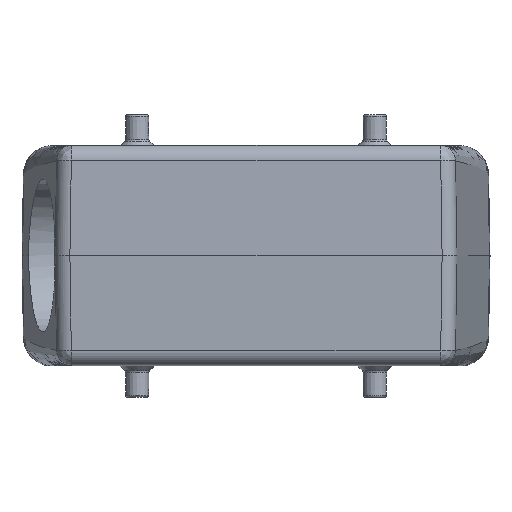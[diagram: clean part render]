
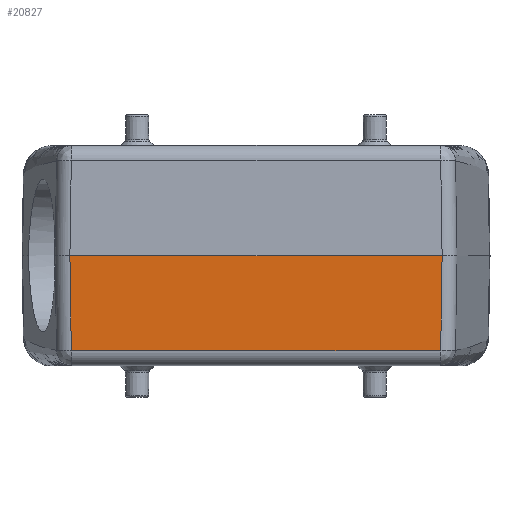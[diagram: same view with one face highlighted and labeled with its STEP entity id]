
A CAD part, top view. The second image highlights one B-rep face of the part: STEP entity #20827.
In plain terms, the highlighted planar face has unit normal (0, -0.018, 1).
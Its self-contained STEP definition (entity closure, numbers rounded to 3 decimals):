
#1194 = CARTESIAN_POINT ( 'NONE',  ( -36.903, -18.923, 59.67 ) ) ;
#1287 = VERTEX_POINT ( 'NONE', #15973 ) ;
#1396 = ORIENTED_EDGE ( 'NONE', *, *, #20356, .F. ) ;
#1898 = CARTESIAN_POINT ( 'NONE',  ( -37.18, 0., 60. ) ) ;
#2430 = DIRECTION ( 'NONE',  ( -0.015, -1., -0.017 ) ) ;
#2560 = CARTESIAN_POINT ( 'NONE',  ( 36.888, -18.987, 59.669 ) ) ;
#2703 = AXIS2_PLACEMENT_3D ( 'NONE', #11277, #3659, #7211 ) ;
#3298 = ORIENTED_EDGE ( 'NONE', *, *, #20020, .T. ) ;
#3659 = DIRECTION ( 'NONE',  ( 0., -0.017, 1. ) ) ;
#3797 = EDGE_CURVE ( 'NONE', #18580, #9563, #16385, .T. ) ;
#4169 = CARTESIAN_POINT ( 'NONE',  ( 36.765, -19.052, 59.667 ) ) ;
#4434 = B_SPLINE_CURVE_WITH_KNOTS ( 'NONE', 3,
 ( #6717, #15724, #22628, #13808, #15570, #4943 ),
 .UNSPECIFIED., .F., .F.,
 ( 4, 2, 4 ),
 ( 0., 0.5, 1. ),
 .UNSPECIFIED. ) ;
#4943 = CARTESIAN_POINT ( 'NONE',  ( -36.771, -19.052, 59.667 ) ) ;
#6174 = CARTESIAN_POINT ( 'NONE',  ( 36.802, -19.052, 59.667 ) ) ;
#6717 = CARTESIAN_POINT ( 'NONE',  ( -36.903, -18.923, 59.67 ) ) ;
#7152 = CARTESIAN_POINT ( 'NONE',  ( 37.18, 0., 60. ) ) ;
#7211 = DIRECTION ( 'NONE',  ( 0., -1., -0.017 ) ) ;
#7592 = CARTESIAN_POINT ( 'NONE',  ( 36.902, -18.955, 59.669 ) ) ;
#8279 = EDGE_LOOP ( 'NONE', ( #15102, #22128, #12486, #12284, #1396, #3298 ) ) ;
#8335 = LINE ( 'NONE', #15623, #8883 ) ;
#8883 = VECTOR ( 'NONE', #17233, 1000. ) ;
#8977 = FACE_OUTER_BOUND ( 'NONE', #8279, .T. ) ;
#9445 = CARTESIAN_POINT ( 'NONE',  ( 36.765, -19.052, 59.667 ) ) ;
#9555 = VECTOR ( 'NONE', #10990, 1000. ) ;
#9563 = VERTEX_POINT ( 'NONE', #17411 ) ;
#10270 = B_SPLINE_CURVE_WITH_KNOTS ( 'NONE', 3,
 ( #21195, #21355, #14165, #1898 ),
 .UNSPECIFIED., .F., .F.,
 ( 4, 4 ),
 ( 0., 1. ),
 .UNSPECIFIED. ) ;
#10990 = DIRECTION ( 'NONE',  ( -1., 0., 0. ) ) ;
#11277 = CARTESIAN_POINT ( 'NONE',  ( -66.197, 0., 60. ) ) ;
#12284 = ORIENTED_EDGE ( 'NONE', *, *, #20446, .T. ) ;
#12486 = ORIENTED_EDGE ( 'NONE', *, *, #19866, .F. ) ;
#13343 = VERTEX_POINT ( 'NONE', #1194 ) ;
#13441 = LINE ( 'NONE', #19788, #9555 ) ;
#13808 = CARTESIAN_POINT ( 'NONE',  ( -36.838, -19.04, 59.668 ) ) ;
#14027 = EDGE_CURVE ( 'NONE', #22006, #18580, #8335, .T. ) ;
#14165 = CARTESIAN_POINT ( 'NONE',  ( -37.088, -6.308, 59.89 ) ) ;
#15102 = ORIENTED_EDGE ( 'NONE', *, *, #14027, .T. ) ;
#15570 = CARTESIAN_POINT ( 'NONE',  ( -36.808, -19.052, 59.667 ) ) ;
#15623 = CARTESIAN_POINT ( 'NONE',  ( -66.197, -19.052, 59.667 ) ) ;
#15724 = CARTESIAN_POINT ( 'NONE',  ( -36.902, -18.959, 59.669 ) ) ;
#15973 = CARTESIAN_POINT ( 'NONE',  ( -37.18, 0., 60. ) ) ;
#16217 = LINE ( 'NONE', #20162, #17303 ) ;
#16385 = B_SPLINE_CURVE_WITH_KNOTS ( 'NONE', 3,
 ( #9445, #6174, #18320, #2560, #7592, #21782 ),
 .UNSPECIFIED., .F., .F.,
 ( 4, 2, 4 ),
 ( 0., 0.5, 1. ),
 .UNSPECIFIED. ) ;
#17233 = DIRECTION ( 'NONE',  ( 1., 0., 0. ) ) ;
#17303 = VECTOR ( 'NONE', #2430, 1000. ) ;
#17411 = CARTESIAN_POINT ( 'NONE',  ( 36.903, -18.917, 59.67 ) ) ;
#18108 = VERTEX_POINT ( 'NONE', #7152 ) ;
#18320 = CARTESIAN_POINT ( 'NONE',  ( 36.835, -19.039, 59.668 ) ) ;
#18580 = VERTEX_POINT ( 'NONE', #4169 ) ;
#19266 = CARTESIAN_POINT ( 'NONE',  ( -36.771, -19.052, 59.667 ) ) ;
#19788 = CARTESIAN_POINT ( 'NONE',  ( -66.197, 0., 60. ) ) ;
#19866 = EDGE_CURVE ( 'NONE', #18108, #9563, #16217, .T. ) ;
#20020 = EDGE_CURVE ( 'NONE', #13343, #22006, #4434, .T. ) ;
#20162 = CARTESIAN_POINT ( 'NONE',  ( 37.18, 0., 60. ) ) ;
#20356 = EDGE_CURVE ( 'NONE', #13343, #1287, #10270, .T. ) ;
#20446 = EDGE_CURVE ( 'NONE', #18108, #1287, #13441, .T. ) ;
#20827 = ADVANCED_FACE ( 'NONE', ( #8977 ), #21884, .T. ) ;
#21195 = CARTESIAN_POINT ( 'NONE',  ( -36.903, -18.923, 59.67 ) ) ;
#21355 = CARTESIAN_POINT ( 'NONE',  ( -36.995, -12.616, 59.78 ) ) ;
#21782 = CARTESIAN_POINT ( 'NONE',  ( 36.903, -18.917, 59.67 ) ) ;
#21884 = PLANE ( 'NONE',  #2703 ) ;
#22006 = VERTEX_POINT ( 'NONE', #19266 ) ;
#22128 = ORIENTED_EDGE ( 'NONE', *, *, #3797, .T. ) ;
#22628 = CARTESIAN_POINT ( 'NONE',  ( -36.888, -18.99, 59.669 ) ) ;
